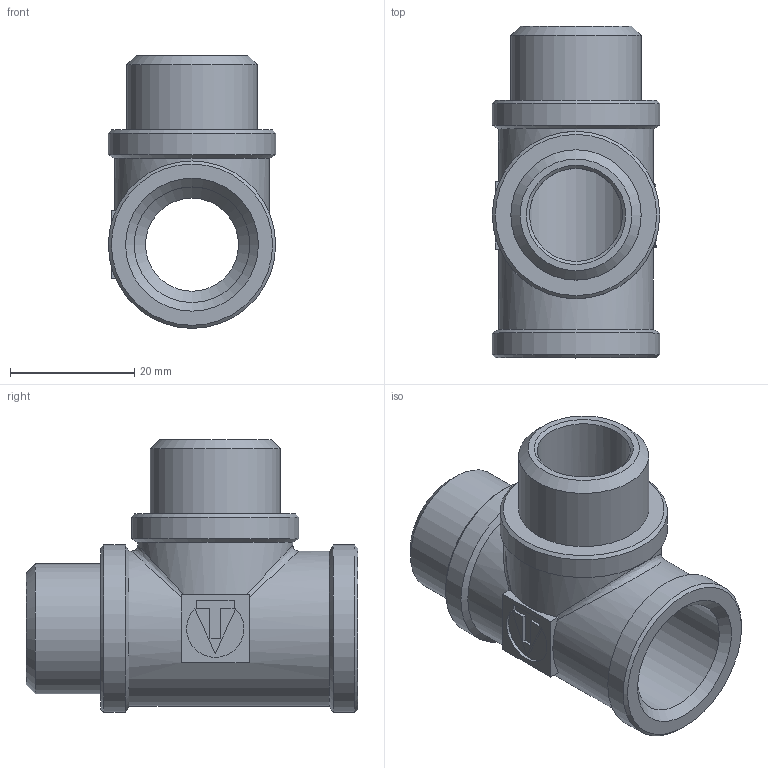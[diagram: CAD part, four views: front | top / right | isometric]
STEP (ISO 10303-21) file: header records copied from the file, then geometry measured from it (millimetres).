
FILE_DESCRIPTION(('STEP AP203'), '1');
FILE_NAME('ÂÐ.752249.005 - VTr.133.N.0004 - Ôèò. ðåçüá. òðîé', '2024-07-16T08:49:25', ('Boss'), (''), 'C3D Converter', 'C3D Toolkit', '');
FILE_SCHEMA(('CONFIG_CONTROL_DESIGN'));
Length unit declared in the file: millimetre
Products named in the file (1): ВР.752249.005
Bounding box: 27 x 53.5 x 44 mm (x, y, z)
Volume: 16319.9 mm3; surface area: 10074 mm2
Topology: 1 solids, 1 shells, 133 faces, 362 edges, 238 vertices
Faces by surface type: extrusion 58, plane 45, cylinder 16, cone 12, bspline 2
Full cylindrical faces by diameter (mm): 15 x2, 18.632 x1, 21 x2, 25 x2, 27 x3
Entity records: 6220 total; most frequent: CARTESIAN_POINT 3258, ORIENTED_EDGE 678, DIRECTION 417, EDGE_CURVE 339, VERTEX_POINT 238, B_SPLINE_CURVE_WITH_KNOTS 187, VECTOR 183, EDGE_LOOP 167
